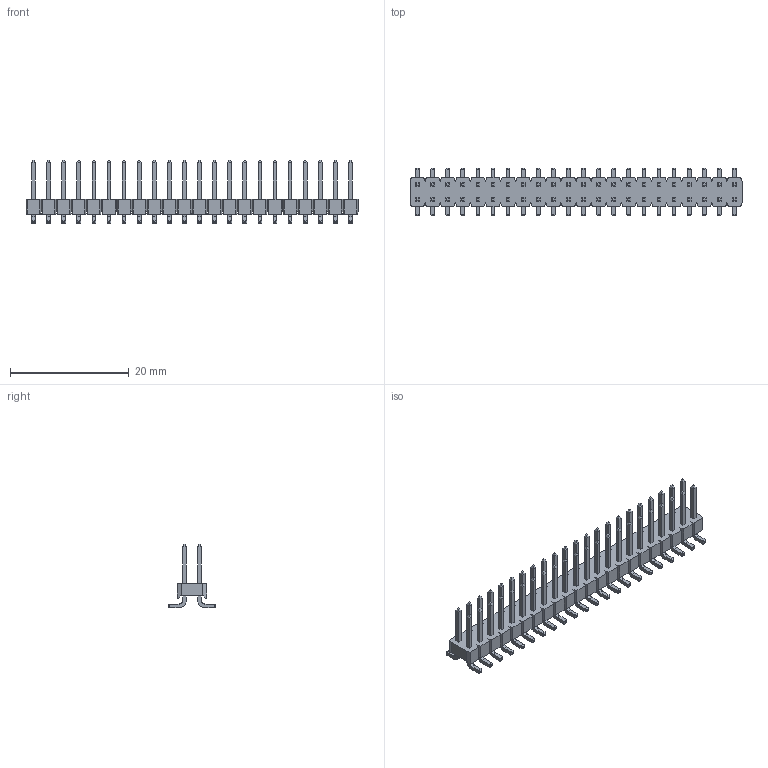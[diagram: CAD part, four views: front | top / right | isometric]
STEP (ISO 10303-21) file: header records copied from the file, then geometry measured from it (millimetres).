
FILE_DESCRIPTION(/* description */ (''),/* implementation_level */ '2;1');
FILE_NAME(/* name */ '961244-6700-XX-XX',/* time_stamp */ '2007-06-18T12:43:15+02:00',/* author */ (''),/* organization */ (''),/* preprocessor_version */ 'ST-DEVELOPER v9',/* originating_system */ 'UGS - NX 4.0',/* authorisation */ '');
FILE_SCHEMA (('AUTOMOTIVE_DESIGN { 1 0 10303 214 1 1 1 1 }'));
Length unit declared in the file: millimetre
Products named in the file (1): 961244-6700-XX-XX
Bounding box: 55.88 x 8 x 10.7 mm (x, y, z)
Volume: 768.5 mm3; surface area: 2101.2 mm2
Topology: 1 solids, 1 shells, 1192 faces, 2954 edges, 1852 vertices
Faces by surface type: plane 928, cylinder 264
Entity records: 34478 total; most frequent: CARTESIAN_POINT 5999, ORIENTED_EDGE 5908, DIRECTION 5692, EDGE_CURVE 2954, LINE 2602, VECTOR 2602, VERTEX_POINT 1852, AXIS2_PLACEMENT_3D 1545
